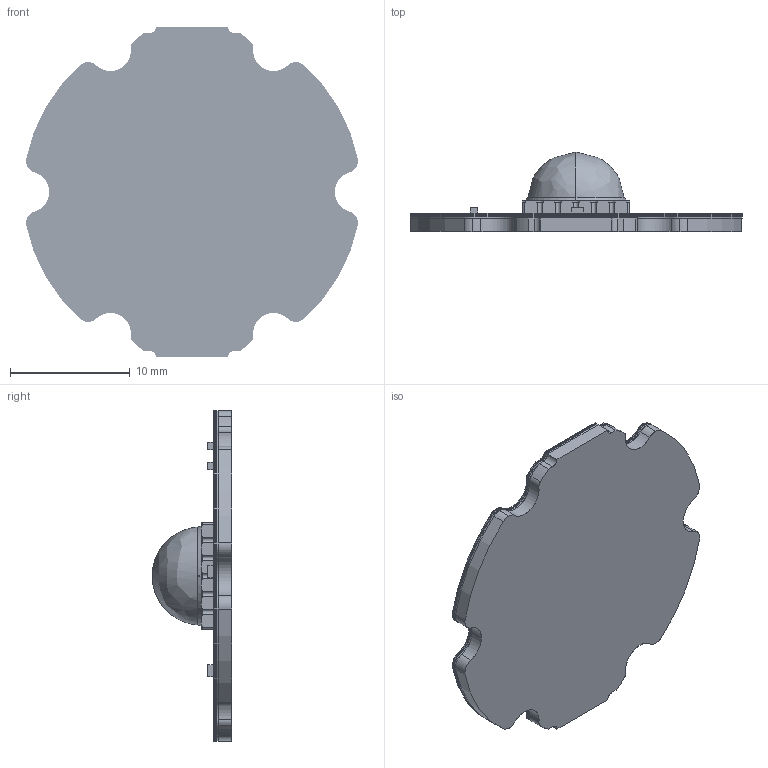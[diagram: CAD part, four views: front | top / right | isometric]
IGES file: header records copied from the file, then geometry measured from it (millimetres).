
Start section: SolidWorks IGES file using analytic representation for surfaces
Global section: file name: C:\P-Gold\Projects\MCPCBs\For_09x09_12die_LZC\1900-0080-RBN\Applications\release_LZC-B3MA07-P3_RevA1_12-17-12\LZC-B3MA07-P3_LZC-RGBA_MCPCB_RevA1.IGS; native system: SolidWorks 2011; preprocessor: SolidWorks 2011; author: dadebiyi; date: 121217.111632; units: millimetre
Bounding box: 27.77 x 6.66 x 27.62 mm (x, y, z)
Surface area: 6609.6 mm2 (no closed solid volume)
Topology: 0 solids, 0 shells, 3145 faces, 31193 edges, 31187 vertices
Faces by surface type: bspline 1960, revolution 1185
